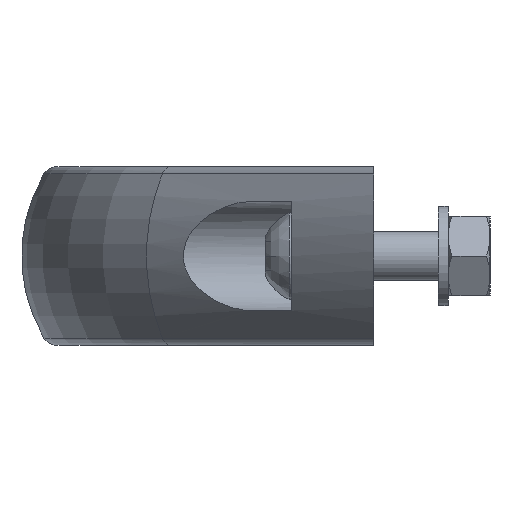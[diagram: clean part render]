
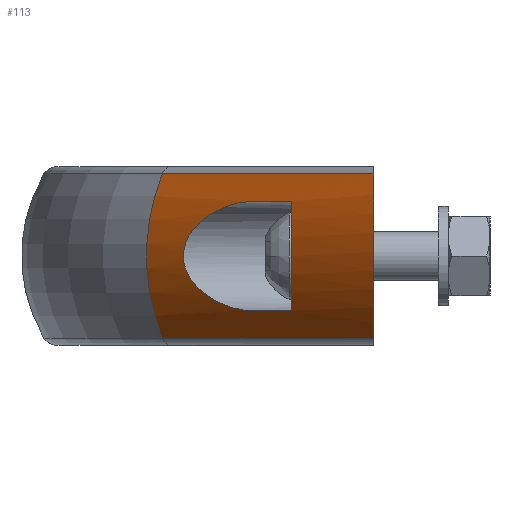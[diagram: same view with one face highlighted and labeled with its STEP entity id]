
A CAD part, left-side view. The second image highlights one B-rep face of the part: STEP entity #113.
In plain terms, the highlighted cylindrical face has radius 32.5 mm (diameter 65 mm), a partial arc.
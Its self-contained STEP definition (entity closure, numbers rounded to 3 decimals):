
#113 = ADVANCED_FACE( '', ( #289, #290 ), #291, .T. );
#289 = FACE_OUTER_BOUND( '', #607, .T. );
#290 = FACE_BOUND( '', #608, .T. );
#291 = CYLINDRICAL_SURFACE( '', #609, 32.5 );
#607 = EDGE_LOOP( '', ( #1100, #1101, #1102, #1103 ) );
#608 = EDGE_LOOP( '', ( #1104, #1105, #1106, #1107 ) );
#609 = AXIS2_PLACEMENT_3D( '', #1108, #1109, #1110 );
#1100 = ORIENTED_EDGE( '', *, *, #1810, .F. );
#1101 = ORIENTED_EDGE( '', *, *, #1811, .T. );
#1102 = ORIENTED_EDGE( '', *, *, #1812, .F. );
#1103 = ORIENTED_EDGE( '', *, *, #1807, .F. );
#1104 = ORIENTED_EDGE( '', *, *, #1813, .F. );
#1105 = ORIENTED_EDGE( '', *, *, #1814, .F. );
#1106 = ORIENTED_EDGE( '', *, *, #1815, .F. );
#1107 = ORIENTED_EDGE( '', *, *, #1816, .F. );
#1108 = CARTESIAN_POINT( '', ( -500.012, -118.591, 0. ) );
#1109 = DIRECTION( '', ( -0.707, -0.707, 0. ) );
#1110 = DIRECTION( '', ( -0.707, 0.707, 0. ) );
#1807 = EDGE_CURVE( '', #2139, #2142, #2143, .T. );
#1810 = EDGE_CURVE( '', #2147, #2139, #2148, .T. );
#1811 = EDGE_CURVE( '', #2147, #2149, #2150, .T. );
#1812 = EDGE_CURVE( '', #2142, #2149, #2151, .T. );
#1813 = EDGE_CURVE( '', #2152, #2153, #2154, .F. );
#1814 = EDGE_CURVE( '', #2155, #2152, #2156, .T. );
#1815 = EDGE_CURVE( '', #2157, #2155, #2158, .T. );
#1816 = EDGE_CURVE( '', #2153, #2157, #2159, .T. );
#2139 = VERTEX_POINT( '', #2860 );
#2142 = VERTEX_POINT( '', #2863 );
#2143 = LINE( '', #2864, #2865 );
#2147 = VERTEX_POINT( '', #2870 );
#2148 = ELLIPSE( '', #2871, 45.962, 32.5 );
#2149 = VERTEX_POINT( '', #2872 );
#2150 = LINE( '', #2873, #2874 );
#2151 = CIRCLE( '', #2875, 32.5 );
#2152 = VERTEX_POINT( '', #2876 );
#2153 = VERTEX_POINT( '', #2877 );
#2154 = LINE( '', #2878, #2879 );
#2155 = VERTEX_POINT( '', #2880 );
#2156 = B_SPLINE_CURVE_WITH_KNOTS( '', 3, ( #2881, #2882, #2883, #2884, #2885, #2886, #2887, #2888, #2889, #2890, #2891, #2892, #2893, #2894, #2895, #2896, #2897, #2898, #2899, #2900, #2901, #2902, #2903, #2904, #2905, #2906, #2907, #2908, #2909, #2910, #2911, #2912, #2913, #2914, #2915, #2916, #2917, #2918, #2919, #2920, #2921, #2922, #2923, #2924, #2925, #2926, #2927, #2928, #2929, #2930, #2931, #2932, #2933, #2934 ), .UNSPECIFIED., .F., .F., ( 4, 2, 2, 2, 2, 2, 2, 2, 2, 2, 2, 2, 2, 2, 2, 2, 2, 2, 2, 2, 2, 2, 2, 2, 2, 2, 4 ), ( 0.017, 0.019, 0.022, 0.025, 0.028, 0.031, 0.032, 0.034, 0.034, 0.035, 0.036, 0.037, 0.038, 0.039, 0.04, 0.041, 0.041, 0.042, 0.043, 0.045, 0.048, 0.05, 0.053, 0.056, 0.057, 0.059, 0.062 ), .UNSPECIFIED. );
#2157 = VERTEX_POINT( '', #2935 );
#2158 = LINE( '', #2936, #2937 );
#2159 = ELLIPSE( '', #2938, 45.962, 32.5 );
#2860 = CARTESIAN_POINT( '', ( -420.997, 0., -16.525 ) );
#2863 = CARTESIAN_POINT( '', ( -378.379, 42.619, -16.525 ) );
#2864 = CARTESIAN_POINT( '', ( -519.8, -98.803, -16.525 ) );
#2865 = VECTOR( '', #3380, 1000. );
#2870 = CARTESIAN_POINT( '', ( -420.997, 0., 16.525 ) );
#2871 = AXIS2_PLACEMENT_3D( '', #3385, #3386, #3387 );
#2872 = CARTESIAN_POINT( '', ( -378.379, 42.619, 16.525 ) );
#2873 = CARTESIAN_POINT( '', ( -519.8, -98.803, 16.525 ) );
#2874 = VECTOR( '', #3388, 1000. );
#2875 = AXIS2_PLACEMENT_3D( '', #3389, #3390, #3391 );
#2876 = CARTESIAN_POINT( '', ( -400., 24.67, -11. ) );
#2877 = CARTESIAN_POINT( '', ( -408.07, 16.6, -11. ) );
#2878 = CARTESIAN_POINT( '', ( -521.636, -96.967, -11. ) );
#2879 = VECTOR( '', #3392, 1000. );
#2880 = CARTESIAN_POINT( '', ( -400., 24.67, 11. ) );
#2881 = CARTESIAN_POINT( '', ( -400., 24.67, 11. ) );
#2882 = CARTESIAN_POINT( '', ( -399.332, 25.337, 11. ) );
#2883 = CARTESIAN_POINT( '', ( -398.687, 26.014, 10.94 ) );
#2884 = CARTESIAN_POINT( '', ( -397.433, 27.38, 10.715 ) );
#2885 = CARTESIAN_POINT( '', ( -396.825, 28.069, 10.551 ) );
#2886 = CARTESIAN_POINT( '', ( -395.641, 29.458, 10.119 ) );
#2887 = CARTESIAN_POINT( '', ( -395.062, 30.161, 9.85 ) );
#2888 = CARTESIAN_POINT( '', ( -393.959, 31.54, 9.215 ) );
#2889 = CARTESIAN_POINT( '', ( -393.433, 32.218, 8.849 ) );
#2890 = CARTESIAN_POINT( '', ( -392.429, 33.54, 8.007 ) );
#2891 = CARTESIAN_POINT( '', ( -391.952, 34.185, 7.532 ) );
#2892 = CARTESIAN_POINT( '', ( -391.278, 35.115, 6.712 ) );
#2893 = CARTESIAN_POINT( '', ( -391.059, 35.42, 6.419 ) );
#2894 = CARTESIAN_POINT( '', ( -390.644, 36.004, 5.796 ) );
#2895 = CARTESIAN_POINT( '', ( -390.447, 36.283, 5.468 ) );
#2896 = CARTESIAN_POINT( '', ( -390.172, 36.675, 4.945 ) );
#2897 = CARTESIAN_POINT( '', ( -390.084, 36.802, 4.766 ) );
#2898 = CARTESIAN_POINT( '', ( -389.914, 37.046, 4.396 ) );
#2899 = CARTESIAN_POINT( '', ( -389.833, 37.164, 4.204 ) );
#2900 = CARTESIAN_POINT( '', ( -389.603, 37.497, 3.618 ) );
#2901 = CARTESIAN_POINT( '', ( -389.47, 37.692, 3.211 ) );
#2902 = CARTESIAN_POINT( '', ( -389.303, 37.937, 2.572 ) );
#2903 = CARTESIAN_POINT( '', ( -389.253, 38.01, 2.354 ) );
#2904 = CARTESIAN_POINT( '', ( -389.164, 38.14, 1.909 ) );
#2905 = CARTESIAN_POINT( '', ( -389.126, 38.196, 1.679 ) );
#2906 = CARTESIAN_POINT( '', ( -389.034, 38.332, 0.981 ) );
#2907 = CARTESIAN_POINT( '', ( -389.002, 38.38, 0.512 ) );
#2908 = CARTESIAN_POINT( '', ( -388.999, 38.383, -0.2 ) );
#2909 = CARTESIAN_POINT( '', ( -389.006, 38.373, -0.439 ) );
#2910 = CARTESIAN_POINT( '', ( -389.035, 38.33, -0.914 ) );
#2911 = CARTESIAN_POINT( '', ( -389.058, 38.297, -1.148 ) );
#2912 = CARTESIAN_POINT( '', ( -389.116, 38.211, -1.61 ) );
#2913 = CARTESIAN_POINT( '', ( -389.152, 38.158, -1.838 ) );
#2914 = CARTESIAN_POINT( '', ( -389.238, 38.031, -2.288 ) );
#2915 = CARTESIAN_POINT( '', ( -389.288, 37.958, -2.51 ) );
#2916 = CARTESIAN_POINT( '', ( -389.455, 37.714, -3.162 ) );
#2917 = CARTESIAN_POINT( '', ( -389.588, 37.519, -3.572 ) );
#2918 = CARTESIAN_POINT( '', ( -389.889, 37.082, -4.353 ) );
#2919 = CARTESIAN_POINT( '', ( -390.058, 36.839, -4.724 ) );
#2920 = CARTESIAN_POINT( '', ( -390.609, 36.051, -5.783 ) );
#2921 = CARTESIAN_POINT( '', ( -391.022, 35.468, -6.396 ) );
#2922 = CARTESIAN_POINT( '', ( -391.919, 34.23, -7.497 ) );
#2923 = CARTESIAN_POINT( '', ( -392.407, 33.57, -7.987 ) );
#2924 = CARTESIAN_POINT( '', ( -393.422, 32.231, -8.841 ) );
#2925 = CARTESIAN_POINT( '', ( -393.951, 31.55, -9.209 ) );
#2926 = CARTESIAN_POINT( '', ( -395.052, 30.173, -9.845 ) );
#2927 = CARTESIAN_POINT( '', ( -395.624, 29.478, -10.112 ) );
#2928 = CARTESIAN_POINT( '', ( -396.52, 28.427, -10.44 ) );
#2929 = CARTESIAN_POINT( '', ( -396.824, 28.076, -10.536 ) );
#2930 = CARTESIAN_POINT( '', ( -397.439, 27.38, -10.702 ) );
#2931 = CARTESIAN_POINT( '', ( -397.749, 27.035, -10.772 ) );
#2932 = CARTESIAN_POINT( '', ( -398.693, 26.007, -10.941 ) );
#2933 = CARTESIAN_POINT( '', ( -399.338, 25.332, -11. ) );
#2934 = CARTESIAN_POINT( '', ( -400., 24.67, -11. ) );
#2935 = CARTESIAN_POINT( '', ( -408.07, 16.6, 11. ) );
#2936 = CARTESIAN_POINT( '', ( -521.636, -96.967, 11. ) );
#2937 = VECTOR( '', #3393, 1000. );
#2938 = AXIS2_PLACEMENT_3D( '', #3394, #3395, #3396 );
#3380 = DIRECTION( '', ( 0.707, 0.707, 0. ) );
#3385 = CARTESIAN_POINT( '', ( -381.42, 0., 0. ) );
#3386 = DIRECTION( '', ( 0., -1., 0. ) );
#3387 = DIRECTION( '', ( 1., 0., 0. ) );
#3388 = DIRECTION( '', ( 0.707, 0.707, 0. ) );
#3389 = CARTESIAN_POINT( '', ( -358.59, 22.83, 0. ) );
#3390 = DIRECTION( '', ( 0.707, 0.707, 0. ) );
#3391 = DIRECTION( '', ( 0., 0., -1. ) );
#3392 = DIRECTION( '', ( 0.707, 0.707, 0. ) );
#3393 = DIRECTION( '', ( 0.707, 0.707, 0. ) );
#3394 = CARTESIAN_POINT( '', ( -364.82, 16.6, 0. ) );
#3395 = DIRECTION( '', ( 0., 1., 0. ) );
#3396 = DIRECTION( '', ( 1., 0., 0. ) );
